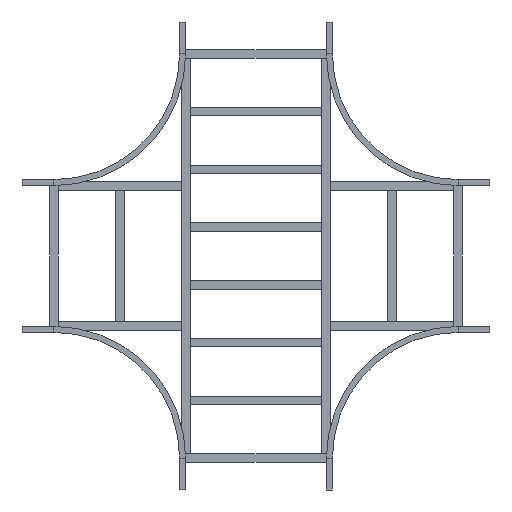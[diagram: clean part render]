
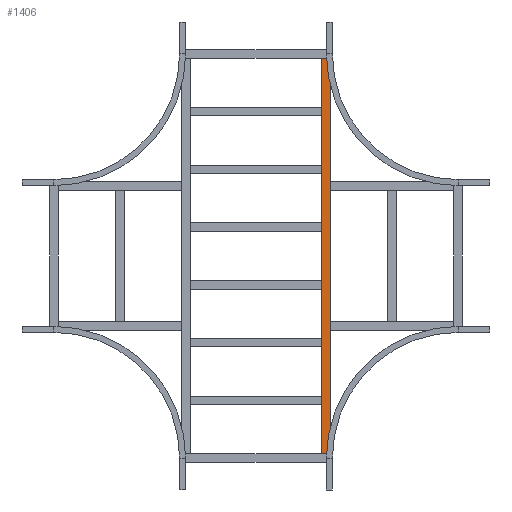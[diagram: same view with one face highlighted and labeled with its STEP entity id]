
A CAD part, front view. The second image highlights one B-rep face of the part: STEP entity #1406.
In plain terms, the highlighted planar face has unit normal (0, -1, 0).
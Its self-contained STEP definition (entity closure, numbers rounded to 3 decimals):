
#89 = VERTEX_POINT ( 'NONE', #3132 ) ;
#177 = CARTESIAN_POINT ( 'NONE',  ( -929.75, 0., 20.25 ) ) ;
#248 = ORIENTED_EDGE ( 'NONE', *, *, #2160, .F. ) ;
#265 = DIRECTION ( 'NONE',  ( -1., 0., 0. ) ) ;
#379 = CARTESIAN_POINT ( 'NONE',  ( -929.75, 0., 20.25 ) ) ;
#453 = VECTOR ( 'NONE', #3048, 1000. ) ;
#509 = LINE ( 'NONE', #2498, #613 ) ;
#613 = VECTOR ( 'NONE', #2697, 1000. ) ;
#663 = LINE ( 'NONE', #379, #2446 ) ;
#804 = VERTEX_POINT ( 'NONE', #2017 ) ;
#964 = EDGE_LOOP ( 'NONE', ( #2989, #248, #970, #2782 ) ) ;
#965 = AXIS2_PLACEMENT_3D ( 'NONE', #1568, #1997, #3067 ) ;
#970 = ORIENTED_EDGE ( 'NONE', *, *, #3131, .F. ) ;
#1079 = LINE ( 'NONE', #2343, #453 ) ;
#1231 = CARTESIAN_POINT ( 'NONE',  ( 929.75, 0., 20.25 ) ) ;
#1305 = PLANE ( 'NONE',  #965 ) ;
#1406 = ADVANCED_FACE ( 'NONE', ( #2805 ), #1305, .F. ) ;
#1568 = CARTESIAN_POINT ( 'NONE',  ( 929.75, 0., 20.25 ) ) ;
#1595 = VECTOR ( 'NONE', #265, 1000. ) ;
#1681 = DIRECTION ( 'NONE',  ( 0., 0., -1. ) ) ;
#1997 = DIRECTION ( 'NONE',  ( 0., 1., 0. ) ) ;
#2017 = CARTESIAN_POINT ( 'NONE',  ( -929.75, 0., -20.25 ) ) ;
#2160 = EDGE_CURVE ( 'NONE', #89, #804, #2214, .T. ) ;
#2175 = VERTEX_POINT ( 'NONE', #1231 ) ;
#2214 = LINE ( 'NONE', #2525, #1595 ) ;
#2321 = EDGE_CURVE ( 'NONE', #2175, #2540, #1079, .T. ) ;
#2343 = CARTESIAN_POINT ( 'NONE',  ( 929.75, 0., 20.25 ) ) ;
#2446 = VECTOR ( 'NONE', #1681, 1000. ) ;
#2498 = CARTESIAN_POINT ( 'NONE',  ( 929.75, 0., 20.25 ) ) ;
#2525 = CARTESIAN_POINT ( 'NONE',  ( 929.75, 0., -20.25 ) ) ;
#2540 = VERTEX_POINT ( 'NONE', #177 ) ;
#2697 = DIRECTION ( 'NONE',  ( 0., 0., -1. ) ) ;
#2782 = ORIENTED_EDGE ( 'NONE', *, *, #2321, .T. ) ;
#2805 = FACE_OUTER_BOUND ( 'NONE', #964, .T. ) ;
#2973 = EDGE_CURVE ( 'NONE', #2540, #804, #663, .T. ) ;
#2989 = ORIENTED_EDGE ( 'NONE', *, *, #2973, .T. ) ;
#3048 = DIRECTION ( 'NONE',  ( -1., 0., 0. ) ) ;
#3067 = DIRECTION ( 'NONE',  ( 0., 0., 1. ) ) ;
#3131 = EDGE_CURVE ( 'NONE', #2175, #89, #509, .T. ) ;
#3132 = CARTESIAN_POINT ( 'NONE',  ( 929.75, 0., -20.25 ) ) ;
